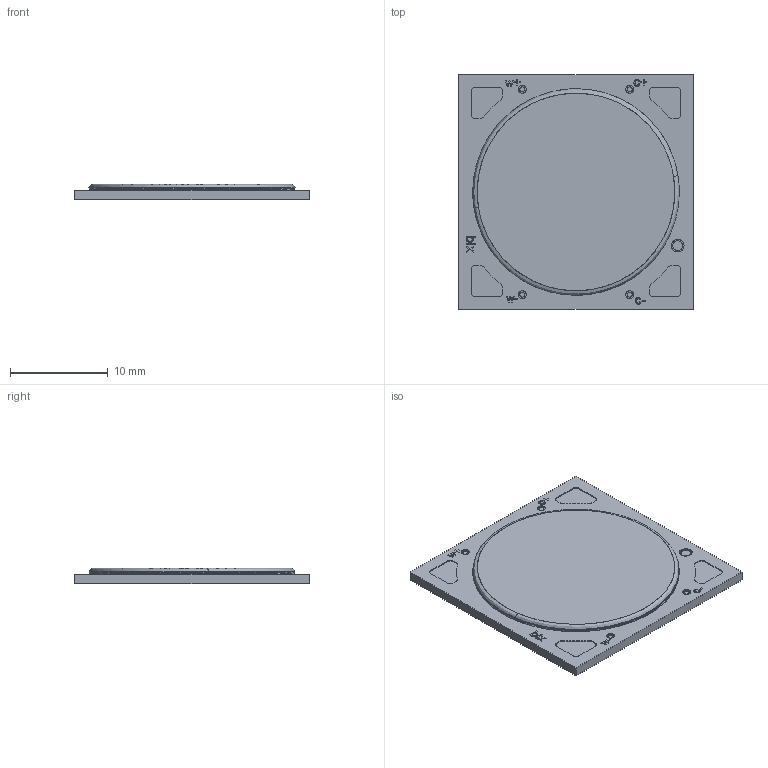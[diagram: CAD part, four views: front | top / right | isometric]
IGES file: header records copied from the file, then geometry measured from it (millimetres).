
Start section: SolidWorks IGES file using analytic representation for surfaces
Global section: file name: D:\Users\5160206\Desktop\3D document\NTW GEN3\NTW18-G3\NTW18-G3 Assembly.IGS; native system: SolidWorks 2018; preprocessor: SolidWorks 2018; author: 5160206; date: 250109.093815; units: millimetre
Bounding box: 24 x 24 x 1.6 mm (x, y, z)
Surface area: 1282.5 mm2 (no closed solid volume)
Topology: 0 solids, 0 shells, 189 faces, 1574 edges, 1574 vertices
Faces by surface type: bspline 147, revolution 42
